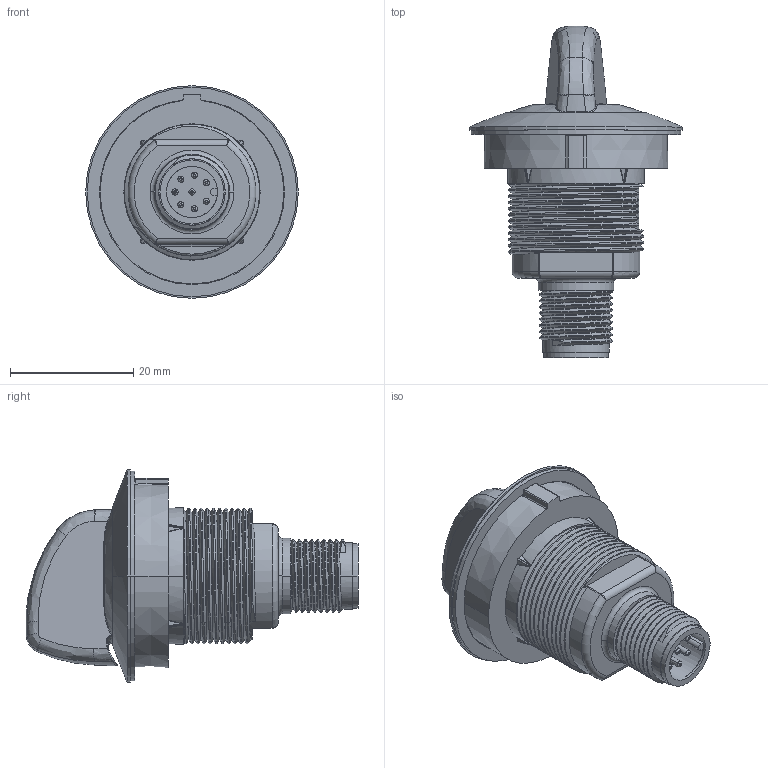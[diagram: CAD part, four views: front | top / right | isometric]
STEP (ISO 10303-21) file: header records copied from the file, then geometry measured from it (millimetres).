
FILE_DESCRIPTION((''),'2;1');
FILE_NAME('111021023_SCHRUMPF_-15','2017-03-10T',('u52610'),(''),'PRO/ENGINEER BY PARAMETRIC TECHNOLOGY CORPORATION, 2014430','PRO/ENGINEER BY PARAMETRIC TECHNOLOGY CORPORATION, 2014430','');
FILE_SCHEMA(('CONFIG_CONTROL_DESIGN'));
Length unit declared in the file: millimetre
Products named in the file (1): 111021023_SCHRUMPF_-15
Bounding box: 34.5 x 53.86 x 34.5 mm (x, y, z)
Volume: 15876.8 mm3; surface area: 6153.1 mm2
Topology: 1 solids, 2 shells, 317 faces, 786 edges, 487 vertices
Faces by surface type: bspline 157, cylinder 85, plane 44, torus 19, cone 10, sphere 2
Entity records: 26832 total; most frequent: CARTESIAN_POINT 18342, ORIENTED_EDGE 1572, DIRECTION 1008, EDGE_CURVE 786, VERTEX_POINT 487, AXIS2_PLACEMENT_3D 420, B_SPLINE_CURVE_WITH_KNOTS 358, EDGE_LOOP 335
